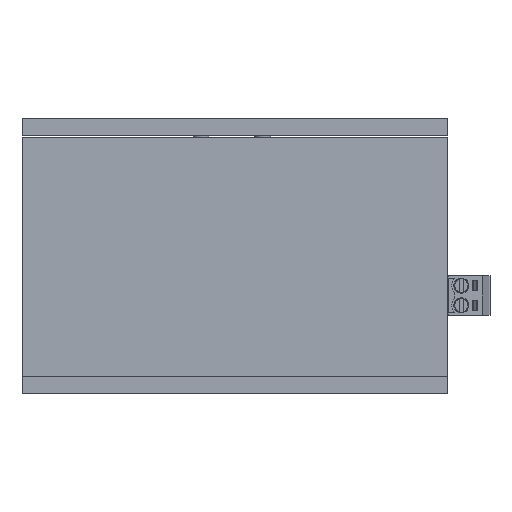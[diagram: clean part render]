
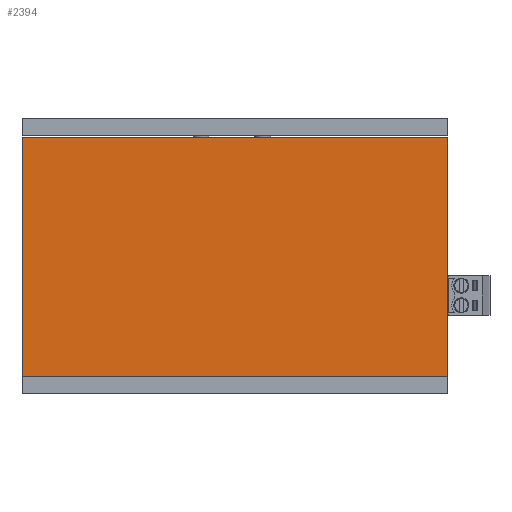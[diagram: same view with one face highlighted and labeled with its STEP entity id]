
A CAD part, top view. The second image highlights one B-rep face of the part: STEP entity #2394.
In plain terms, the highlighted planar face has unit normal (0, 0, 1).
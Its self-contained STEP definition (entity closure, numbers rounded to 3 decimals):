
#2123 = VERTEX_POINT('',#2124);
#2124 = CARTESIAN_POINT('',(-1.,45.,25.));
#2130 = EDGE_CURVE('',#2123,#2131,#2133,.T.);
#2131 = VERTEX_POINT('',#2132);
#2132 = CARTESIAN_POINT('',(80.8,45.,25.));
#2133 = LINE('',#2134,#2135);
#2134 = CARTESIAN_POINT('',(-1.,45.,25.));
#2135 = VECTOR('',#2136,1.);
#2136 = DIRECTION('',(1.,0.,0.));
#2259 = EDGE_CURVE('',#2260,#2131,#2262,.T.);
#2260 = VERTEX_POINT('',#2261);
#2261 = CARTESIAN_POINT('',(80.8,-1.,25.));
#2262 = LINE('',#2263,#2264);
#2263 = CARTESIAN_POINT('',(80.8,-1.,25.));
#2264 = VECTOR('',#2265,1.);
#2265 = DIRECTION('',(0.,1.,0.));
#2307 = VERTEX_POINT('',#2308);
#2308 = CARTESIAN_POINT('',(-1.,-1.,25.));
#2316 = EDGE_CURVE('',#2307,#2123,#2317,.T.);
#2317 = LINE('',#2318,#2319);
#2318 = CARTESIAN_POINT('',(-1.,-1.,25.));
#2319 = VECTOR('',#2320,1.);
#2320 = DIRECTION('',(0.,1.,0.));
#2394 = ADVANCED_FACE('',(#2395),#2406,.T.);
#2395 = FACE_BOUND('',#2396,.T.);
#2396 = EDGE_LOOP('',(#2397,#2398,#2404,#2405));
#2397 = ORIENTED_EDGE('',*,*,#2316,.F.);
#2398 = ORIENTED_EDGE('',*,*,#2399,.T.);
#2399 = EDGE_CURVE('',#2307,#2260,#2400,.T.);
#2400 = LINE('',#2401,#2402);
#2401 = CARTESIAN_POINT('',(-1.,-1.,25.));
#2402 = VECTOR('',#2403,1.);
#2403 = DIRECTION('',(1.,0.,0.));
#2404 = ORIENTED_EDGE('',*,*,#2259,.T.);
#2405 = ORIENTED_EDGE('',*,*,#2130,.F.);
#2406 = PLANE('',#2407);
#2407 = AXIS2_PLACEMENT_3D('',#2408,#2409,#2410);
#2408 = CARTESIAN_POINT('',(-1.,-1.,25.));
#2409 = DIRECTION('',(0.,0.,1.));
#2410 = DIRECTION('',(1.,0.,0.));
